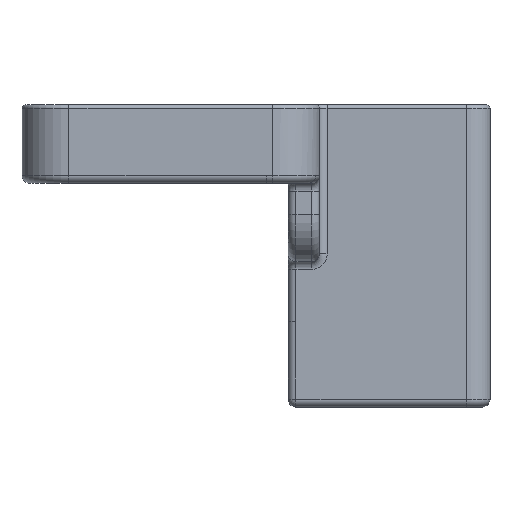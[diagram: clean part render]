
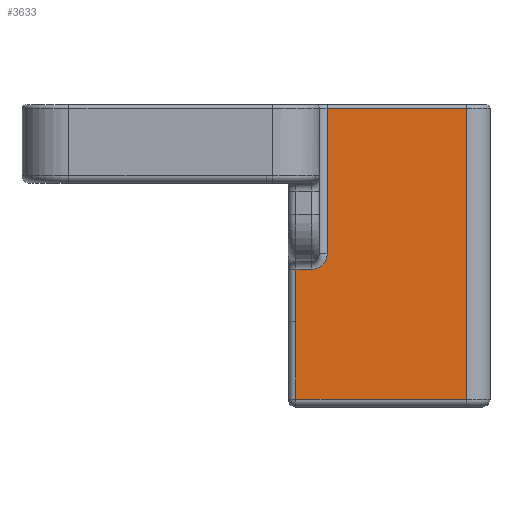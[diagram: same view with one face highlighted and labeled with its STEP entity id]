
A CAD part, front view. The second image highlights one B-rep face of the part: STEP entity #3633.
In plain terms, the highlighted planar face has unit normal (0, -1, 0).
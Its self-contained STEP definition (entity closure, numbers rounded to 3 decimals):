
#166 = LINE ( 'NONE', #1228, #1972 ) ;
#321 = EDGE_CURVE ( 'NONE', #4631, #2661, #2464, .T. ) ;
#397 = EDGE_CURVE ( 'NONE', #4149, #1939, #3446, .T. ) ;
#414 = CARTESIAN_POINT ( 'NONE',  ( 8.4, -20.7, 2.3 ) ) ;
#426 = CARTESIAN_POINT ( 'NONE',  ( 19.941, -20.7, -16.3 ) ) ;
#458 = CARTESIAN_POINT ( 'NONE',  ( 7.4, -20.7, -8. ) ) ;
#505 = VECTOR ( 'NONE', #2577, 1000. ) ;
#665 = VECTOR ( 'NONE', #1575, 1000. ) ;
#669 = EDGE_CURVE ( 'NONE', #2661, #741, #166, .T. ) ;
#730 = VECTOR ( 'NONE', #2471, 1000. ) ;
#741 = VERTEX_POINT ( 'NONE', #4239 ) ;
#1148 = DIRECTION ( 'NONE',  ( 0., 1., 0. ) ) ;
#1150 = VERTEX_POINT ( 'NONE', #1440 ) ;
#1202 = CARTESIAN_POINT ( 'NONE',  ( 7.4, -20.7, -7. ) ) ;
#1228 = CARTESIAN_POINT ( 'NONE',  ( 6.4, -20.7, 3. ) ) ;
#1242 = DIRECTION ( 'NONE',  ( 0., 0., 1. ) ) ;
#1333 = CARTESIAN_POINT ( 'NONE',  ( 8.4, -20.7, 2.3 ) ) ;
#1412 = ORIENTED_EDGE ( 'NONE', *, *, #1879, .T. ) ;
#1440 = CARTESIAN_POINT ( 'NONE',  ( 17.3, -20.7, 2.3 ) ) ;
#1448 = LINE ( 'NONE', #414, #505 ) ;
#1484 = DIRECTION ( 'NONE',  ( 0., 1., 0. ) ) ;
#1489 = DIRECTION ( 'NONE',  ( 1., 0., 0. ) ) ;
#1502 = CARTESIAN_POINT ( 'NONE',  ( 6.4, -20.7, 3. ) ) ;
#1575 = DIRECTION ( 'NONE',  ( 0., 0., -1. ) ) ;
#1638 = VECTOR ( 'NONE', #2249, 1000. ) ;
#1715 = VERTEX_POINT ( 'NONE', #2327 ) ;
#1789 = PLANE ( 'NONE',  #4176 ) ;
#1790 = ORIENTED_EDGE ( 'NONE', *, *, #4403, .T. ) ;
#1879 = EDGE_CURVE ( 'NONE', #1150, #4637, #1448, .T. ) ;
#1890 = CARTESIAN_POINT ( 'NONE',  ( 8.4, -20.7, -11.328 ) ) ;
#1939 = VERTEX_POINT ( 'NONE', #458 ) ;
#1972 = VECTOR ( 'NONE', #3850, 1000. ) ;
#2102 = CARTESIAN_POINT ( 'NONE',  ( 17.3, -20.7, 3. ) ) ;
#2113 = VECTOR ( 'NONE', #1489, 1000. ) ;
#2241 = EDGE_CURVE ( 'NONE', #741, #1715, #4120, .T. ) ;
#2249 = DIRECTION ( 'NONE',  ( 0., 0., -1. ) ) ;
#2288 = CARTESIAN_POINT ( 'NONE',  ( 6.4, -20.7, -11.328 ) ) ;
#2313 = FACE_OUTER_BOUND ( 'NONE', #2518, .T. ) ;
#2327 = CARTESIAN_POINT ( 'NONE',  ( 17.3, -20.7, -16.3 ) ) ;
#2358 = EDGE_CURVE ( 'NONE', #1939, #4631, #2874, .T. ) ;
#2464 = LINE ( 'NONE', #1502, #665 ) ;
#2471 = DIRECTION ( 'NONE',  ( 0., 0., 1. ) ) ;
#2518 = EDGE_LOOP ( 'NONE', ( #1790, #4453, #3206, #3371, #3877, #4273, #2851, #1412 ) ) ;
#2577 = DIRECTION ( 'NONE',  ( -1., 0., 0. ) ) ;
#2661 = VERTEX_POINT ( 'NONE', #2288 ) ;
#2794 = DIRECTION ( 'NONE',  ( -1., 0., 0. ) ) ;
#2828 = CARTESIAN_POINT ( 'NONE',  ( 8.4, -20.7, -7. ) ) ;
#2851 = ORIENTED_EDGE ( 'NONE', *, *, #4175, .T. ) ;
#2874 = LINE ( 'NONE', #4281, #3517 ) ;
#2949 = DIRECTION ( 'NONE',  ( 0., 0., 1. ) ) ;
#3206 = ORIENTED_EDGE ( 'NONE', *, *, #2358, .T. ) ;
#3371 = ORIENTED_EDGE ( 'NONE', *, *, #321, .T. ) ;
#3446 = CIRCLE ( 'NONE', #3744, 1. ) ;
#3517 = VECTOR ( 'NONE', #2794, 1000. ) ;
#3633 = ADVANCED_FACE ( 'NONE', ( #2313 ), #1789, .F. ) ;
#3659 = LINE ( 'NONE', #2102, #730 ) ;
#3744 = AXIS2_PLACEMENT_3D ( 'NONE', #1202, #1148, #1242 ) ;
#3850 = DIRECTION ( 'NONE',  ( 0., 0., -1. ) ) ;
#3877 = ORIENTED_EDGE ( 'NONE', *, *, #669, .T. ) ;
#4120 = LINE ( 'NONE', #426, #2113 ) ;
#4149 = VERTEX_POINT ( 'NONE', #2828 ) ;
#4175 = EDGE_CURVE ( 'NONE', #1715, #1150, #3659, .T. ) ;
#4176 = AXIS2_PLACEMENT_3D ( 'NONE', #4761, #1484, #2949 ) ;
#4239 = CARTESIAN_POINT ( 'NONE',  ( 6.4, -20.7, -16.3 ) ) ;
#4273 = ORIENTED_EDGE ( 'NONE', *, *, #2241, .T. ) ;
#4281 = CARTESIAN_POINT ( 'NONE',  ( 5.9, -20.7, -8. ) ) ;
#4285 = CARTESIAN_POINT ( 'NONE',  ( 6.4, -20.7, -8. ) ) ;
#4403 = EDGE_CURVE ( 'NONE', #4637, #4149, #4601, .T. ) ;
#4453 = ORIENTED_EDGE ( 'NONE', *, *, #397, .T. ) ;
#4601 = LINE ( 'NONE', #1890, #1638 ) ;
#4631 = VERTEX_POINT ( 'NONE', #4285 ) ;
#4637 = VERTEX_POINT ( 'NONE', #1333 ) ;
#4761 = CARTESIAN_POINT ( 'NONE',  ( 19.941, -20.7, 3. ) ) ;
